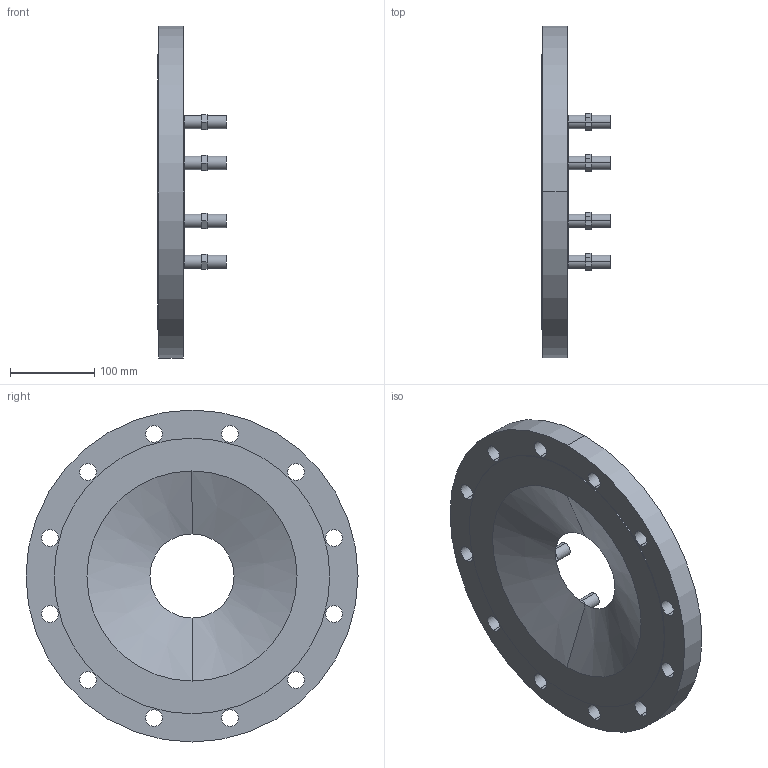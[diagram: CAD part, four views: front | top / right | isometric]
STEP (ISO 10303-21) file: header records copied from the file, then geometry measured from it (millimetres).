
FILE_DESCRIPTION(('STEP AP214'),'1');
FILE_NAME('S:/EK/USER/CAT6/3DHomepage_27-04-2012/VDI-Rohrsysteme_und_Stahlrohre/0802_(8110)/0802_PN10_DN250_DN100.STP','2013-01-25T08:13:29',(' '),(' '),'Spatial InterOp 3D',' ',' ');
FILE_SCHEMA(('automotive_design'));
Length unit declared in the file: millimetre
Products named in the file (18): 3D-Objekt
Bounding box: 81 x 395 x 395 mm (x, y, z)
Volume: 2852994 mm3; surface area: 375381.8 mm2
Topology: 18 solids, 18 shells, 135 faces, 294 edges, 196 vertices
Faces by surface type: plane 85, cylinder 48, cone 2
Entity records: 5260 total; most frequent: DIRECTION 700, CARTESIAN_POINT 643, ORIENTED_EDGE 588, EDGE_CURVE 294, AXIS2_PLACEMENT_3D 253, VERTEX_POINT 196, LINE 194, VECTOR 194
